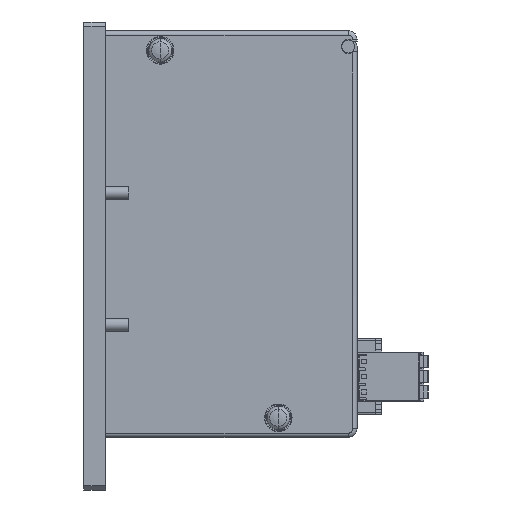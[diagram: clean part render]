
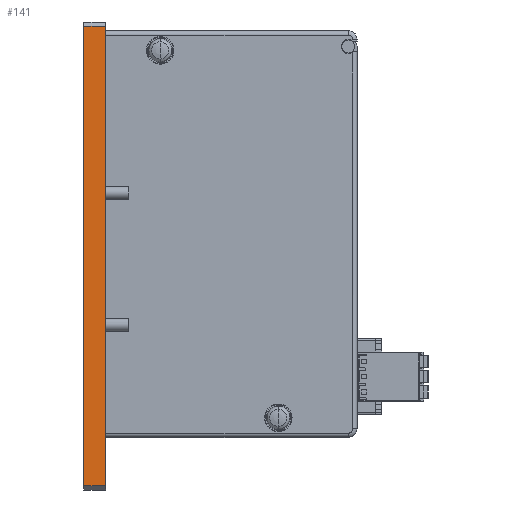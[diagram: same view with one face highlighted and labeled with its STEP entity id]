
A CAD part, left-side view. The second image highlights one B-rep face of the part: STEP entity #141.
In plain terms, the highlighted planar face has unit normal (-1, 0, 0) as drawn and (1, 0, 0) by its records, which use the part's own axes.
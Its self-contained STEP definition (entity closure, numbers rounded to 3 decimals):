
#141=ADVANCED_FACE('',(#1105),#1104,.F.);
#1104=PLANE('',#8822);
#1105=FACE_OUTER_BOUND('',#8823,.T.);
#8819=CARTESIAN_POINT('',(12.5,-5.5,-62.5));
#8820=DIRECTION('',(-1.,0.,0.));
#8821=DIRECTION('',(0.,0.,1.));
#8822=AXIS2_PLACEMENT_3D('',#8819,#8820,#8821);
#8823=EDGE_LOOP('',(#13785,#13786,#13787,#13788));
#13785=ORIENTED_EDGE('',*,*,#17636,.T.);
#13786=ORIENTED_EDGE('',*,*,#17714,.F.);
#13787=ORIENTED_EDGE('',*,*,#17674,.F.);
#13788=ORIENTED_EDGE('',*,*,#17715,.T.);
#17636=EDGE_CURVE('',#19658,#19651,#19659,.T.);
#17674=EDGE_CURVE('',#19917,#19924,#19925,.T.);
#17714=EDGE_CURVE('',#19924,#19651,#20184,.T.);
#17715=EDGE_CURVE('',#19917,#19658,#20190,.T.);
#19651=VERTEX_POINT('',#32862);
#19658=VERTEX_POINT('',#32866);
#19659=LINE('',#32867,#32868);
#19917=VERTEX_POINT('',#33022);
#19924=VERTEX_POINT('',#33026);
#19925=LINE('',#33027,#33028);
#20184=LINE('',#33174,#33175);
#20190=LINE('',#33177,#33178);
#32862=CARTESIAN_POINT('',(12.5,-5.,-52.5));
#32866=CARTESIAN_POINT('',(12.5,-5.,52.5));
#32867=CARTESIAN_POINT('',(12.5,-5.,52.5));
#32868=VECTOR('',#32869,105.);
#32869=DIRECTION('',(0.,0.,-1.));
#33022=CARTESIAN_POINT('',(12.5,0.,52.5));
#33026=CARTESIAN_POINT('',(12.5,0.,-52.5));
#33027=CARTESIAN_POINT('',(12.5,0.,52.5));
#33028=VECTOR('',#33029,105.);
#33029=DIRECTION('',(0.,0.,-1.));
#33174=CARTESIAN_POINT('',(12.5,0.,-52.5));
#33175=VECTOR('',#33176,5.);
#33176=DIRECTION('',(0.,-1.,0.));
#33177=CARTESIAN_POINT('',(12.5,0.,52.5));
#33178=VECTOR('',#33179,5.);
#33179=DIRECTION('',(0.,-1.,0.));
